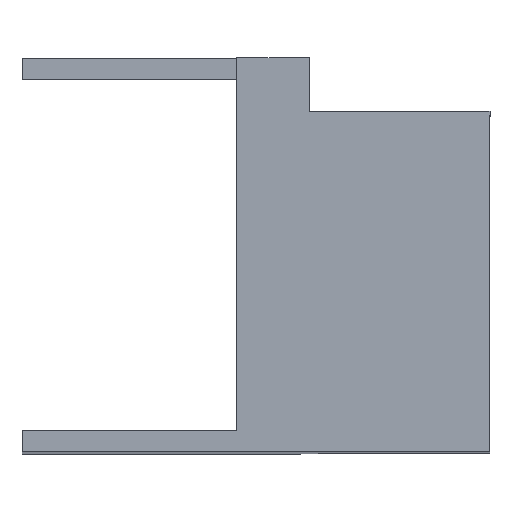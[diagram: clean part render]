
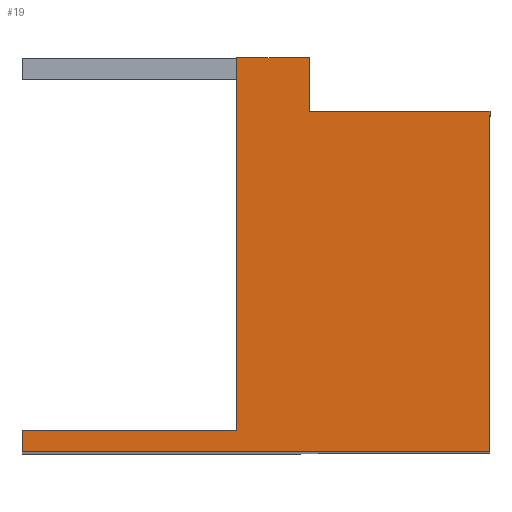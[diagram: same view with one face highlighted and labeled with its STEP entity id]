
A CAD part, top view. The second image highlights one B-rep face of the part: STEP entity #19.
In plain terms, the highlighted planar face has unit normal (0, 0, 1).
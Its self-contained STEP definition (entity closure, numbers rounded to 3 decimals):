
#19 = ADVANCED_FACE ( 'NONE', ( #479 ), #215, .F. ) ;
#22 = VERTEX_POINT ( 'NONE', #199 ) ;
#44 = DIRECTION ( 'NONE',  ( 0., 1., 0. ) ) ;
#45 = CARTESIAN_POINT ( 'NONE',  ( 18., -1.5, 12.85 ) ) ;
#48 = DIRECTION ( 'NONE',  ( 0., 1., 0. ) ) ;
#49 = CARTESIAN_POINT ( 'NONE',  ( 9.5, 1., 12.85 ) ) ;
#50 = DIRECTION ( 'NONE',  ( 0., -1., 0. ) ) ;
#53 = VERTEX_POINT ( 'NONE', #185 ) ;
#54 = CARTESIAN_POINT ( 'NONE',  ( 6.1, -16.5, 12.85 ) ) ;
#76 = DIRECTION ( 'NONE',  ( -1., 0., 0. ) ) ;
#82 = CARTESIAN_POINT ( 'NONE',  ( -4., -16.5, 12.85 ) ) ;
#89 = DIRECTION ( 'NONE',  ( -1., 0., 0. ) ) ;
#90 = CARTESIAN_POINT ( 'NONE',  ( 6.1, 1., 12.85 ) ) ;
#91 = DIRECTION ( 'NONE',  ( 1., 0., 0. ) ) ;
#92 = CARTESIAN_POINT ( 'NONE',  ( 18., -17.5, 12.85 ) ) ;
#111 = DIRECTION ( 'NONE',  ( 0., -1., 0. ) ) ;
#113 = CARTESIAN_POINT ( 'NONE',  ( -4., -17.5, 12.85 ) ) ;
#133 = VERTEX_POINT ( 'NONE', #184 ) ;
#142 = DIRECTION ( 'NONE',  ( -1., 0., 0. ) ) ;
#143 = CARTESIAN_POINT ( 'NONE',  ( 9.5, -1.5, 12.85 ) ) ;
#167 = CARTESIAN_POINT ( 'NONE',  ( 9.5, 1., 12.85 ) ) ;
#171 = CARTESIAN_POINT ( 'NONE',  ( -4., -16.5, 12.85 ) ) ;
#174 = CARTESIAN_POINT ( 'NONE',  ( 6.1, -16.5, 12.85 ) ) ;
#177 = CARTESIAN_POINT ( 'NONE',  ( 6.1, 1., 12.85 ) ) ;
#178 = CARTESIAN_POINT ( 'NONE',  ( 18., -1.5, 12.85 ) ) ;
#184 = CARTESIAN_POINT ( 'NONE',  ( 18., -17.5, 12.85 ) ) ;
#185 = CARTESIAN_POINT ( 'NONE',  ( 9.5, -1.5, 12.85 ) ) ;
#199 = CARTESIAN_POINT ( 'NONE',  ( -4., -17.5, 12.85 ) ) ;
#205 = DIRECTION ( 'NONE',  ( 0., -1., 0. ) ) ;
#206 = DIRECTION ( 'NONE',  ( 0., 0., -1. ) ) ;
#212 = CARTESIAN_POINT ( 'NONE',  ( 18., -17.5, 12.85 ) ) ;
#215 = PLANE ( 'NONE',  #390 ) ;
#280 = VERTEX_POINT ( 'NONE', #178 ) ;
#281 = VERTEX_POINT ( 'NONE', #177 ) ;
#284 = VERTEX_POINT ( 'NONE', #174 ) ;
#303 = VERTEX_POINT ( 'NONE', #171 ) ;
#308 = VERTEX_POINT ( 'NONE', #167 ) ;
#336 = VECTOR ( 'NONE', #50, 1000. ) ;
#339 = VECTOR ( 'NONE', #48, 1000. ) ;
#348 = VECTOR ( 'NONE', #44, 1000. ) ;
#354 = LINE ( 'NONE', #45, #348 ) ;
#355 = LINE ( 'NONE', #49, #339 ) ;
#359 = LINE ( 'NONE', #54, #336 ) ;
#377 = EDGE_CURVE ( 'NONE', #280, #53, #525, .T. ) ;
#390 = AXIS2_PLACEMENT_3D ( 'NONE', #212, #206, #205 ) ;
#396 = VECTOR ( 'NONE', #91, 1000. ) ;
#459 = ORIENTED_EDGE ( 'NONE', *, *, #604, .T. ) ;
#479 = FACE_OUTER_BOUND ( 'NONE', #648, .T. ) ;
#493 = ORIENTED_EDGE ( 'NONE', *, *, #377, .T. ) ;
#494 = ORIENTED_EDGE ( 'NONE', *, *, #699, .T. ) ;
#503 = VECTOR ( 'NONE', #142, 1000. ) ;
#525 = LINE ( 'NONE', #143, #503 ) ;
#535 = LINE ( 'NONE', #113, #543 ) ;
#543 = VECTOR ( 'NONE', #111, 1000. ) ;
#559 = ORIENTED_EDGE ( 'NONE', *, *, #576, .T. ) ;
#573 = ORIENTED_EDGE ( 'NONE', *, *, #610, .T. ) ;
#576 = EDGE_CURVE ( 'NONE', #303, #22, #535, .T. ) ;
#584 = ORIENTED_EDGE ( 'NONE', *, *, #695, .T. ) ;
#589 = ORIENTED_EDGE ( 'NONE', *, *, #602, .T. ) ;
#596 = ORIENTED_EDGE ( 'NONE', *, *, #697, .T. ) ;
#602 = EDGE_CURVE ( 'NONE', #22, #133, #684, .T. ) ;
#604 = EDGE_CURVE ( 'NONE', #308, #281, #641, .T. ) ;
#610 = EDGE_CURVE ( 'NONE', #284, #303, #628, .T. ) ;
#628 = LINE ( 'NONE', #82, #638 ) ;
#638 = VECTOR ( 'NONE', #76, 1000. ) ;
#641 = LINE ( 'NONE', #90, #643 ) ;
#643 = VECTOR ( 'NONE', #89, 1000. ) ;
#648 = EDGE_LOOP ( 'NONE', ( #494, #493, #596, #459, #584, #573, #559, #589 ) ) ;
#684 = LINE ( 'NONE', #92, #396 ) ;
#695 = EDGE_CURVE ( 'NONE', #281, #284, #359, .T. ) ;
#697 = EDGE_CURVE ( 'NONE', #53, #308, #355, .T. ) ;
#699 = EDGE_CURVE ( 'NONE', #133, #280, #354, .T. ) ;
